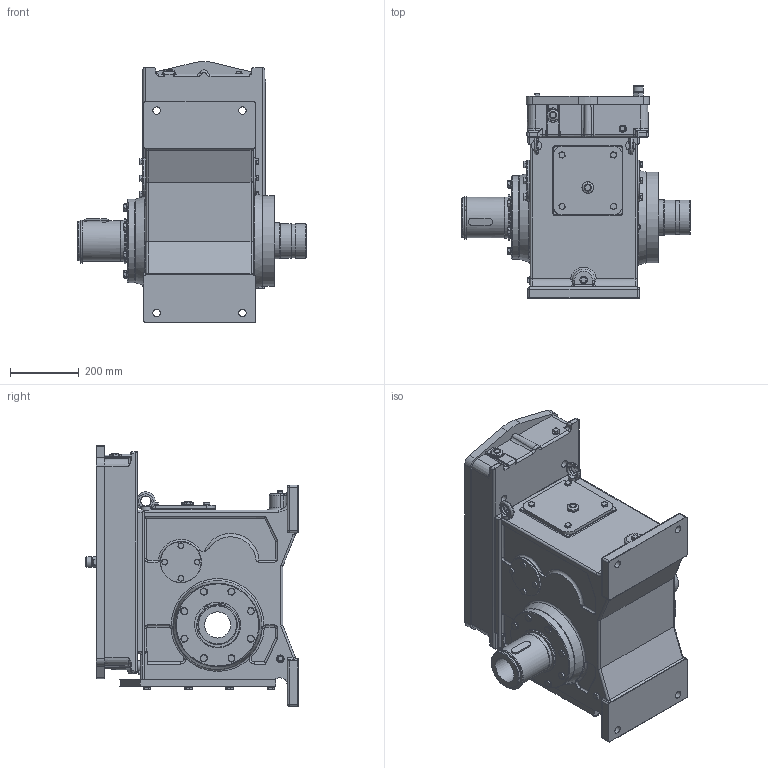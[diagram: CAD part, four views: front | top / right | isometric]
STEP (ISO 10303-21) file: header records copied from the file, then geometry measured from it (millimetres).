
FILE_DESCRIPTION(/* description */ (''),/* implementation_level */ '2;1');
FILE_NAME(/* name */ 'C:\Users\vlakrc01\Desktop\STP\72866.stp',/* time_stamp */ '2017-11-30T16:09:28+01:00',/* author */ ('vlakrc01'),/* organization */ ('Hillmar Industries Ltd.'),/* preprocessor_version */ 'ST-DEVELOPER v16.1',/* originating_system */ 'Autodesk Inventor 2016',/* authorisation */ '');
FILE_SCHEMA (('AUTOMOTIVE_DESIGN { 1 0 10303 214 3 1 1 }'));
Length unit declared in the file: millimetre
Products named in the file (1): 72866 GB25DD-100 GEARBOX ASSEMBLY_Shrinkwrap_1
Bounding box: 667 x 619.13 x 760.47 mm (x, y, z)
Volume: 103373966.9 mm3; surface area: 2134100.8 mm2
Topology: 1 solids, 2 shells, 1311 faces, 3106 edges, 1872 vertices
Faces by surface type: plane 512, cylinder 388, cone 232, bspline 71, torus 62, sphere 46
Full cylindrical faces by diameter (mm): 9.188 x4, 10 x13, 11.053 x10, 12 x8, 15.4 x4, 17.2 x10, 17.4 x8, 21.336 x1, 22 x7, 25 x1, 30 x2, 30.48 x1, 33.401 x1, 71.8 x1, 76.2 x1, 96 x1, 97.6 x1, 100 x1, 101.6 x2, 102 x2, 104.9 x1, 111 x1, 115 x1, 118 x1, 119.9 x1, 120 x3, 134 x1, 244 x1, 265 x1
Entity records: 40663 total; most frequent: CARTESIAN_POINT 10717, DIRECTION 6082, ORIENTED_EDGE 5806, EDGE_CURVE 2903, AXIS2_PLACEMENT_3D 2460, VERTEX_POINT 1821, EDGE_LOOP 1580, FACE_OUTER_BOUND 1311
